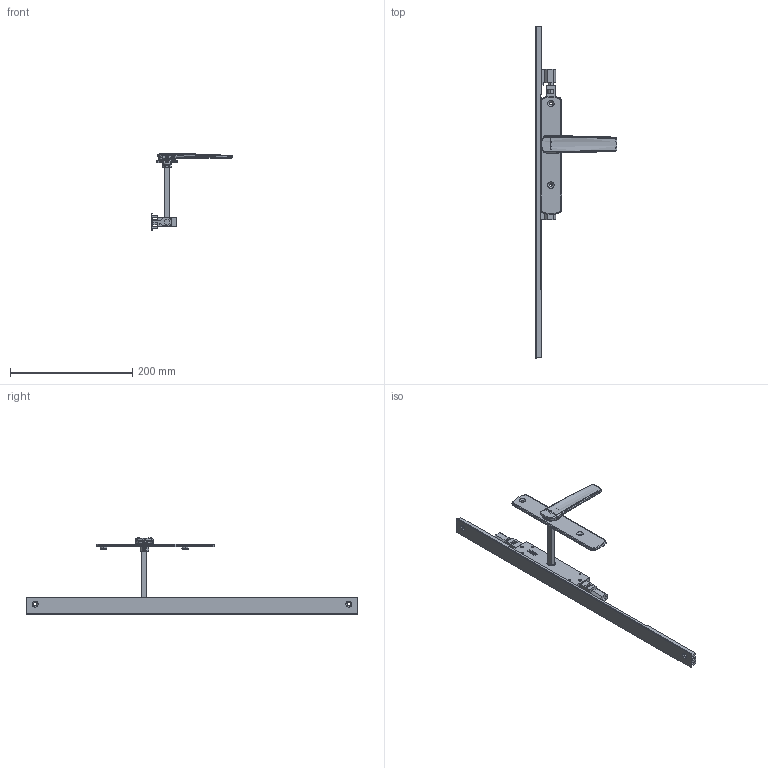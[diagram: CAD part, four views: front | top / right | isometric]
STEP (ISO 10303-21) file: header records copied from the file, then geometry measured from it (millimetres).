
FILE_DESCRIPTION (( 'STEP AP214' ), '1' );
FILE_NAME ('TPL-W-EU-605-U 06Nov2024.STEP', '2024-11-27T01:23:47', ( '' ), ( '' ), 'SwSTEP 2.0', 'SolidWorks 2023', '' );
FILE_SCHEMA (( 'AUTOMOTIVE_DESIGN' ));
Length unit declared in the file: millimetre
Products named in the file (18): TPLGen2 push rod - simplified^Copy of TPLGen2 lock body non-keyed assembly_TPL-W-EU-105 04Nov2024_Female thread M10; TPL-W-EU-605-U 06Nov2024; Copy of LKC-516 Escutcheon plate unkeyed 195mm long zinc - simplified^Copy of TPGen2 handle non-keyed short zinc - simplified_TPL-W-EU-105 04Nov2024; Bolt.step; Copy of TPLGen2 lock body non-keyed^Copy of TPLGen2 lock body non-keyed assembly_TPL-W-EU-105 04Nov2024; Copy of COV-112-A Cover A suit TPLGen2 standard range^TPL-W-EU-105 04Nov2024_2870mm; Copy of Copy of Copy of LKC-531 Lock twinpoint transmission rod wood system^TPL-W-EU-105 04Nov2024_Standard Range 2891.7mm; Copy of LKC-586 Spindle square 8mm with M4 hole^Copy of TPGen2 handle non-keyed short zinc - simplified_TPL-W-EU-105 04Nov2024_100mm; COV-112-C Cover C TPLGen2 Lock body^TPL-W-EU-105 04Nov2024; Copy of LKC-585 Rotator body zinc^Copy of TPGen2 handle non-keyed short zinc - simplified_TPL-W-EU-105 04Nov2024; Copy of Copy of LKC-531 Lock twinpoint transmission rod wood system^TPL-W-EU-105 04Nov2024_Standard Range 2891.7mm; COV-112-B Cover B suit TPLGen2 standard range^TPL-W-EU-105 04Nov2024_2870mm; Copy of Adapter CnE - simplfied^TPL-W-EU-105 04Nov2024_26mm backset; Copy of LKC-505 Swing handle zinc - simplified^Copy of TPGen2 handle non-keyed short zinc - simplified_TPL-W-EU-105 04Nov2024; Copy of Adapter DnF - simplfied^TPL-W-EU-105 04Nov2024_26mm backset; Copy of LKC-584 Pivot body zinc - simplified^Copy of TPGen2 handle non-keyed short zinc - simplified_TPL-W-EU-105 04Nov2024; Copy of TPLGen2 lock body non-keyed assembly^TPL-W-EU-105 04Nov2024_Bolts retracted; Copy of TPGen2 handle non-keyed short zinc - simplified^TPL-W-EU-105 04Nov2024_Right
Assembly tree (15 placements, depth 3):
  TPL-W-EU-605-U 06Nov2024
    Copy of TPLGen2 lock body non-keyed assembly^TPL-W-EU-105 04Nov2024_Bolts retracted
      Copy of TPLGen2 lock body non-keyed^Copy of TPLGen2 lock body non-keyed assembly_TPL-W-EU-105 04Nov2024
      TPLGen2 push rod - simplified^Copy of TPLGen2 lock body non-keyed assembly_TPL-W-EU-105 04Nov2024_Female thread M10  x2
    Copy of TPGen2 handle non-keyed short zinc - simplified^TPL-W-EU-105 04Nov2024_Right
      Copy of LKC-516 Escutcheon plate unkeyed 195mm long zinc - simplified^Copy of TPGen2 handle non-keyed short zinc - simplified_TPL-W-EU-105 04Nov2024
      Copy of LKC-505 Swing handle zinc - simplified^Copy of TPGen2 handle non-keyed short zinc - simplified_TPL-W-EU-105 04Nov2024
      Copy of LKC-585 Rotator body zinc^Copy of TPGen2 handle non-keyed short zinc - simplified_TPL-W-EU-105 04Nov2024
      Copy of LKC-586 Spindle square 8mm with M4 hole^Copy of TPGen2 handle non-keyed short zinc - simplified_TPL-W-EU-105 04Nov2024_100mm
      Copy of LKC-584 Pivot body zinc - simplified^Copy of TPGen2 handle non-keyed short zinc - simplified_TPL-W-EU-105 04Nov2024
    COV-112-C Cover C TPLGen2 Lock body^TPL-W-EU-105 04Nov2024
    Copy of Copy of LKC-531 Lock twinpoint transmission rod wood system^TPL-W-EU-105 04Nov2024_Standard Range 2891.7mm
    Copy of Copy of Copy of LKC-531 Lock twinpoint transmission rod wood system^TPL-W-EU-105 04Nov2024_Standard Range 2891.7mm
    Copy of Adapter DnF - simplfied^TPL-W-EU-105 04Nov2024_26mm backset
    Copy of Adapter CnE - simplfied^TPL-W-EU-105 04Nov2024_26mm backset
  Bolt.step
  Copy of COV-112-A Cover A suit TPLGen2 standard range^TPL-W-EU-105 04Nov2024_2870mm
  COV-112-B Cover B suit TPLGen2 standard range^TPL-W-EU-105 04Nov2024_2870mm
Bounding box: 134.12 x 544 x 125.06 mm (x, y, z)
Volume: 213478.9 mm3; surface area: 122209.6 mm2
Topology: 13 solids, 13 shells, 851 faces, 2100 edges, 1304 vertices
Faces by surface type: plane 304, bspline 241, cylinder 186, cone 66, torus 46, sphere 8
Entity records: 30683 total; most frequent: CARTESIAN_POINT 12559, ORIENTED_EDGE 4008, DIRECTION 3198, EDGE_CURVE 2004, VERTEX_POINT 1244, AXIS2_PLACEMENT_3D 1157, EDGE_LOOP 898, LINE 884
